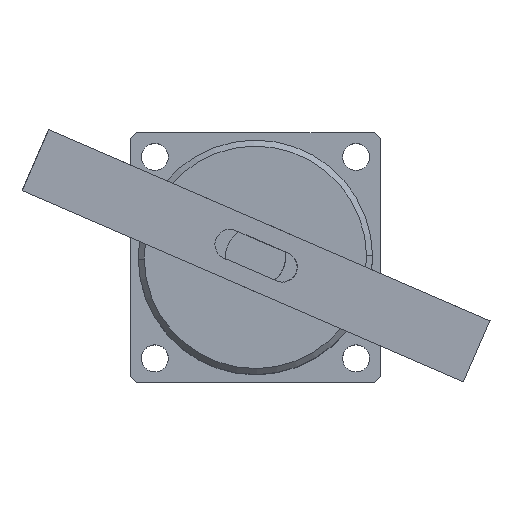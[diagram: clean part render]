
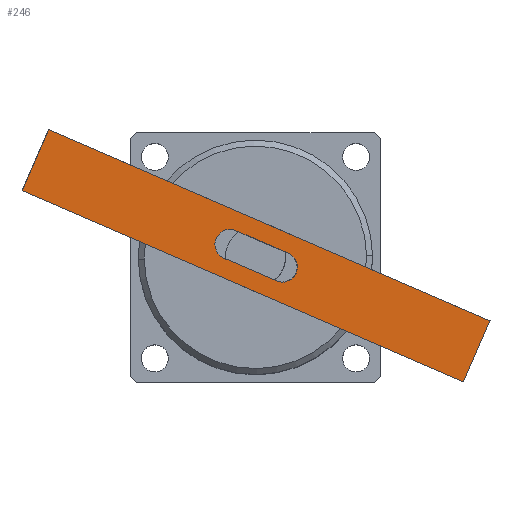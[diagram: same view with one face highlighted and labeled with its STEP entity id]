
A CAD part, top view. The second image highlights one B-rep face of the part: STEP entity #246.
In plain terms, the highlighted planar face has unit normal (0.004, -0.002, 1) as drawn and (0, 1, 0) by its records, which use the part's own axes.
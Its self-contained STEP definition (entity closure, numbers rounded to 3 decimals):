
#192 = EDGE_CURVE ( 'NONE', #249, #193, #901, .T. ) ;
#193 = VERTEX_POINT ( 'NONE', #897 ) ;
#194 = ORIENTED_EDGE ( 'NONE', *, *, #195, .F. ) ;
#195 = EDGE_CURVE ( 'NONE', #196, #249, #961, .T. ) ;
#196 = VERTEX_POINT ( 'NONE', #956 ) ;
#197 = ORIENTED_EDGE ( 'NONE', *, *, #198, .F. ) ;
#198 = EDGE_CURVE ( 'NONE', #199, #196, #955, .T. ) ;
#199 = VERTEX_POINT ( 'NONE', #951 ) ;
#200 = ORIENTED_EDGE ( 'NONE', *, *, #201, .F. ) ;
#201 = EDGE_CURVE ( 'NONE', #193, #199, #950, .T. ) ;
#202 = EDGE_LOOP ( 'NONE', ( #262, #264, #265, #267 ) ) ;
#205 = VERTEX_POINT ( 'NONE', #941 ) ;
#212 = VERTEX_POINT ( 'NONE', #994 ) ;
#214 = EDGE_CURVE ( 'NONE', #212, #205, #993, .T. ) ;
#231 = VERTEX_POINT ( 'NONE', #1020 ) ;
#233 = VERTEX_POINT ( 'NONE', #1019 ) ;
#246 = ADVANCED_FACE ( 'NONE', ( #1052, #1051 ), #1050, .F. ) ;
#247 = EDGE_LOOP ( 'NONE', ( #248, #194, #197, #200 ) ) ;
#248 = ORIENTED_EDGE ( 'NONE', *, *, #192, .F. ) ;
#249 = VERTEX_POINT ( 'NONE', #1045 ) ;
#250 = EDGE_CURVE ( 'NONE', #233, #231, #1044, .T. ) ;
#262 = ORIENTED_EDGE ( 'NONE', *, *, #263, .T. ) ;
#263 = EDGE_CURVE ( 'NONE', #231, #205, #1029, .T. ) ;
#264 = ORIENTED_EDGE ( 'NONE', *, *, #214, .F. ) ;
#265 = ORIENTED_EDGE ( 'NONE', *, *, #266, .F. ) ;
#266 = EDGE_CURVE ( 'NONE', #233, #212, #1093, .T. ) ;
#267 = ORIENTED_EDGE ( 'NONE', *, *, #250, .T. ) ;
#897 = CARTESIAN_POINT ( 'NONE',  ( 70.5, 22.2, 6.1 ) ) ;
#898 = DIRECTION ( 'NONE',  ( -1., 0., 0. ) ) ;
#899 = VECTOR ( 'NONE', #898, 1000. ) ;
#900 = CARTESIAN_POINT ( 'NONE',  ( 70.5, 22.2, 6.1 ) ) ;
#901 = LINE ( 'NONE', #900, #899 ) ;
#941 = CARTESIAN_POINT ( 'NONE',  ( 0., 22.2, 0. ) ) ;
#946 = DIRECTION ( 'NONE',  ( 0., 0., 1. ) ) ;
#947 = DIRECTION ( 'NONE',  ( 0., 1., 0. ) ) ;
#948 = CARTESIAN_POINT ( 'NONE',  ( 70.5, 22.2, 11.1 ) ) ;
#949 = AXIS2_PLACEMENT_3D ( 'NONE', #948, #947, #946 ) ;
#950 = CIRCLE ( 'NONE', #949, 5. ) ;
#951 = CARTESIAN_POINT ( 'NONE',  ( 70.5, 22.2, 16.1 ) ) ;
#952 = DIRECTION ( 'NONE',  ( 1., 0., 0. ) ) ;
#953 = VECTOR ( 'NONE', #952, 1000. ) ;
#954 = CARTESIAN_POINT ( 'NONE',  ( 70.5, 22.2, 16.1 ) ) ;
#955 = LINE ( 'NONE', #954, #953 ) ;
#956 = CARTESIAN_POINT ( 'NONE',  ( 89.5, 22.2, 16.1 ) ) ;
#957 = DIRECTION ( 'NONE',  ( 0., 0., 1. ) ) ;
#958 = DIRECTION ( 'NONE',  ( 0., 1., 0. ) ) ;
#959 = CARTESIAN_POINT ( 'NONE',  ( 89.5, 22.2, 11.1 ) ) ;
#960 = AXIS2_PLACEMENT_3D ( 'NONE', #959, #958, #957 ) ;
#961 = CIRCLE ( 'NONE', #960, 5. ) ;
#990 = DIRECTION ( 'NONE',  ( 0., 0., -1. ) ) ;
#991 = VECTOR ( 'NONE', #990, 1000. ) ;
#992 = CARTESIAN_POINT ( 'NONE',  ( 0., 22.2, 22.2 ) ) ;
#993 = LINE ( 'NONE', #992, #991 ) ;
#994 = CARTESIAN_POINT ( 'NONE',  ( 0., 22.2, 22.2 ) ) ;
#1019 = CARTESIAN_POINT ( 'NONE',  ( 160., 22.2, 22.2 ) ) ;
#1020 = CARTESIAN_POINT ( 'NONE',  ( 160., 22.2, 0. ) ) ;
#1026 = DIRECTION ( 'NONE',  ( -1., 0., 0. ) ) ;
#1027 = VECTOR ( 'NONE', #1026, 1000. ) ;
#1028 = CARTESIAN_POINT ( 'NONE',  ( 0., 22.2, 0. ) ) ;
#1029 = LINE ( 'NONE', #1028, #1027 ) ;
#1041 = DIRECTION ( 'NONE',  ( 0., 0., -1. ) ) ;
#1042 = VECTOR ( 'NONE', #1041, 1000. ) ;
#1043 = CARTESIAN_POINT ( 'NONE',  ( 160., 22.2, 22.2 ) ) ;
#1044 = LINE ( 'NONE', #1043, #1042 ) ;
#1045 = CARTESIAN_POINT ( 'NONE',  ( 89.5, 22.2, 6.1 ) ) ;
#1046 = DIRECTION ( 'NONE',  ( 0., 0., -1. ) ) ;
#1047 = DIRECTION ( 'NONE',  ( 0., -1., 0. ) ) ;
#1048 = CARTESIAN_POINT ( 'NONE',  ( 0., 22.2, 22.2 ) ) ;
#1049 = AXIS2_PLACEMENT_3D ( 'NONE', #1048, #1047, #1046 ) ;
#1050 = PLANE ( 'NONE',  #1049 ) ;
#1051 = FACE_OUTER_BOUND ( 'NONE', #202, .T. ) ;
#1052 = FACE_BOUND ( 'NONE', #247, .T. ) ;
#1090 = DIRECTION ( 'NONE',  ( -1., 0., 0. ) ) ;
#1091 = VECTOR ( 'NONE', #1090, 1000. ) ;
#1092 = CARTESIAN_POINT ( 'NONE',  ( 0., 22.2, 22.2 ) ) ;
#1093 = LINE ( 'NONE', #1092, #1091 ) ;
